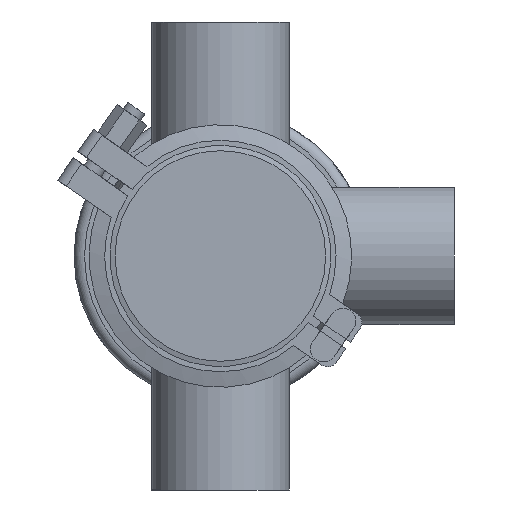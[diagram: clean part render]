
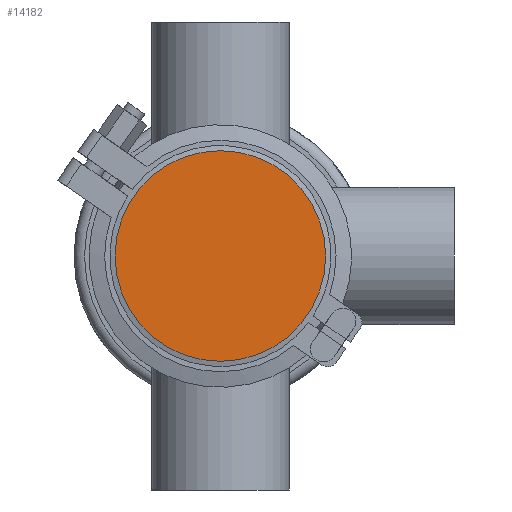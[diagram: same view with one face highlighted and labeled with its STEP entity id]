
A CAD part, front view. The second image highlights one B-rep face of the part: STEP entity #14182.
In plain terms, the highlighted planar face has unit normal (0, -1, 0).
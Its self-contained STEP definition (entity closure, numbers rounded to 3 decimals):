
#2326 = PLANE ( 'NONE',  #3508 ) ;
#3508 = AXIS2_PLACEMENT_3D ( 'NONE', #7194, #13685, #17114 ) ;
#5320 = DIRECTION ( 'NONE',  ( 0., 0., 1. ) ) ;
#5409 = ORIENTED_EDGE ( 'NONE', *, *, #17530, .F. ) ;
#5476 = FACE_OUTER_BOUND ( 'NONE', #16134, .T. ) ;
#7194 = CARTESIAN_POINT ( 'NONE',  ( -40.5, 0., 0. ) ) ;
#9120 = CIRCLE ( 'NONE', #21215, 40.5 ) ;
#10499 = DIRECTION ( 'NONE',  ( 0., 1., 0. ) ) ;
#11746 = VERTEX_POINT ( 'NONE', #14658 ) ;
#13685 = DIRECTION ( 'NONE',  ( 0., -1., 0. ) ) ;
#14182 = ADVANCED_FACE ( 'NONE', ( #5476 ), #2326, .T. ) ;
#14658 = CARTESIAN_POINT ( 'NONE',  ( 0., 0., 40.5 ) ) ;
#16134 = EDGE_LOOP ( 'NONE', ( #5409 ) ) ;
#17114 = DIRECTION ( 'NONE',  ( 0., 0., -1. ) ) ;
#17530 = EDGE_CURVE ( 'NONE', #11746, #11746, #9120, .T. ) ;
#20016 = CARTESIAN_POINT ( 'NONE',  ( 0., 0., 0. ) ) ;
#21215 = AXIS2_PLACEMENT_3D ( 'NONE', #20016, #10499, #5320 ) ;
